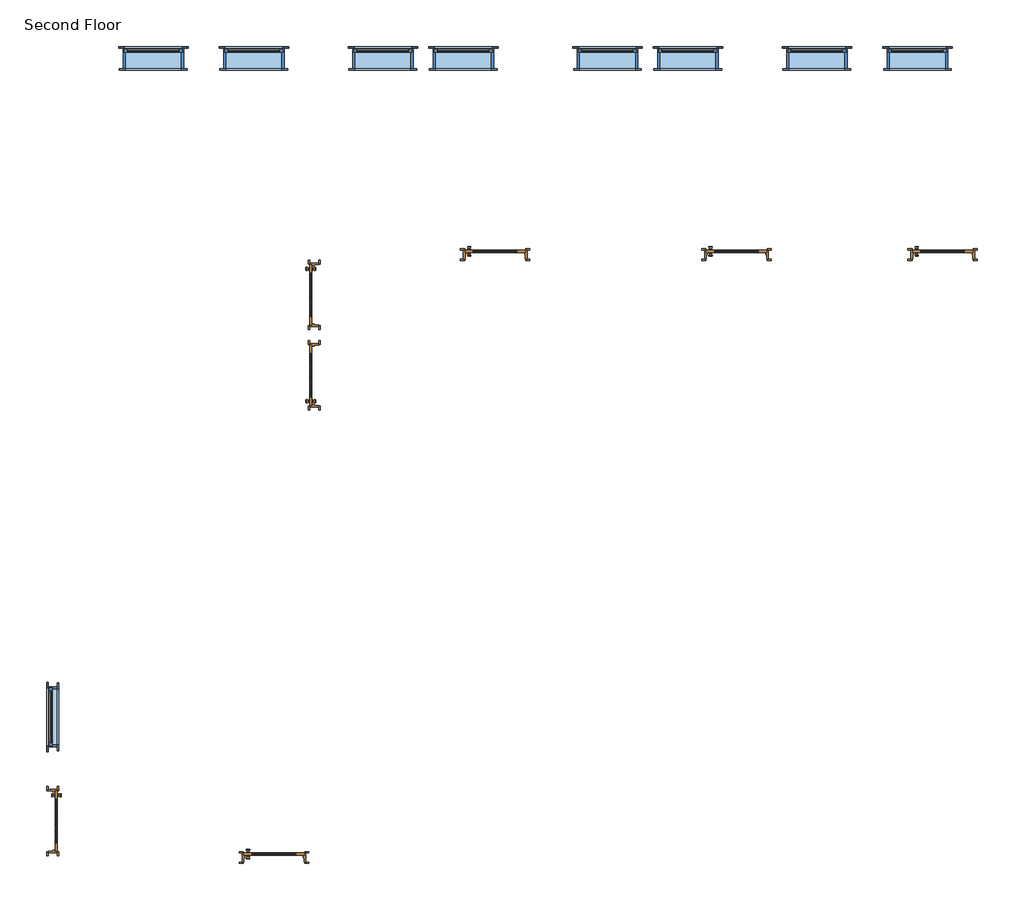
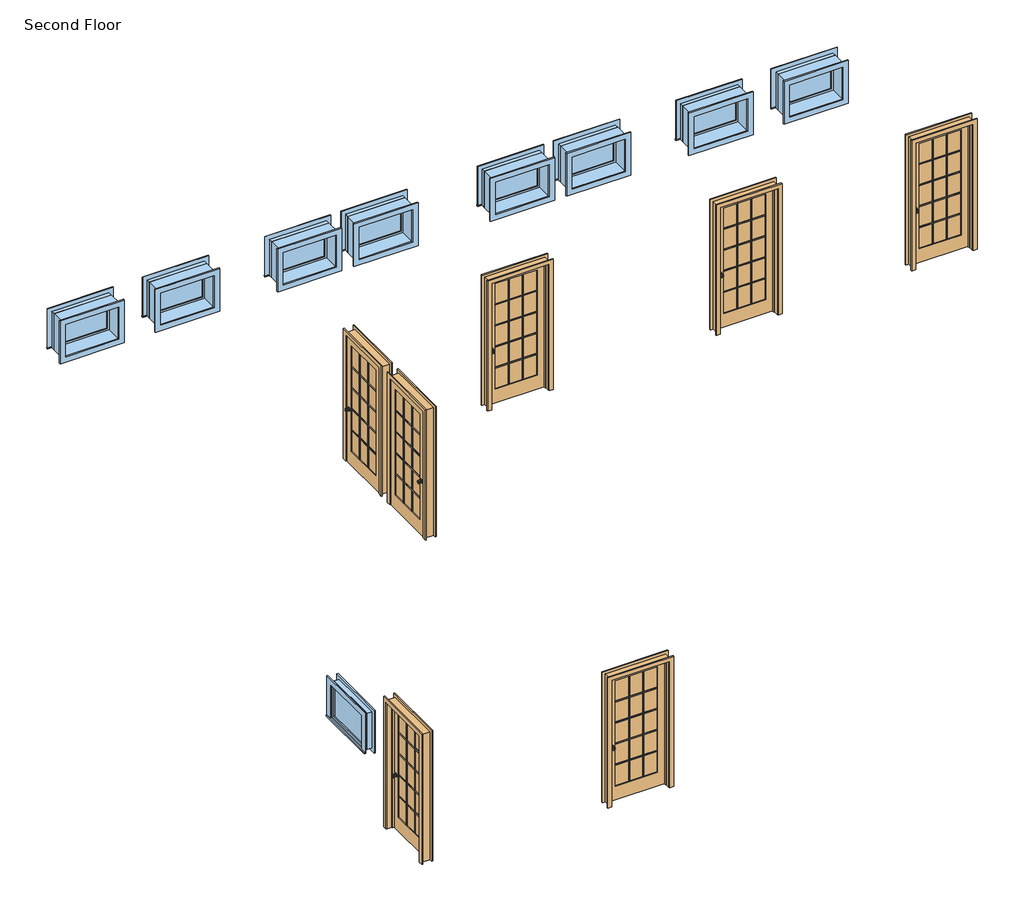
# One storey: 9 windows, 7 doors.
"""IFC4 building model written with IfcOpenShell, lengths in millimetres."""

from ifc_helpers import new_model, si_unit, origin, place, context, project, spatial, transform, mapped, element, save
from components import door_918c180d, door_79dd3e86, window_d9bd7f0d, window_2beb2d92, window_bc8bd959

model = new_model("IFC4")

# Units and contexts
model_context = context("Model", 3, world=origin())
ifc_project = project(units=[si_unit("LENGTHUNIT", "METRE", prefix="MILLI")], contexts=[model_context])

# Site, building, storey
site = spatial("IfcSite", under=ifc_project)
building = spatial("IfcBuilding", under=site)
storey = spatial("IfcBuildingStorey", under=building, Name="Second Floor", Elevation=7315.2)

# Doors
placement = place(None, origin())
door_shape = door_918c180d(model_context)
element("IfcDoor", 1, ObjectType="Door-Interior-Single-Full Glass-Wood : 36\" x 84\"", at=placement, inside=storey, context=model_context, shape_type="MappedRepresentation", body=[
    mapped(door_shape, transform((-2168.3269416, -1737.6636161, 7315.2), x_axis=(0.0, -1.0, 0.0), y_axis=(1.0, 0.0, 0.0), z_axis=(0.0, 0.0, 1.0))),
])
element("IfcDoor", 2, ObjectType="Door-Interior-Single-Full Glass-Wood : 36\" x 84\"", at=placement, inside=storey, context=model_context, shape_type="MappedRepresentation", body=[
    mapped(door_shape, transform((1181.2980584, -2286.9386161, 7315.2), x_axis=(1.0, 0.0, 0.0), y_axis=(0.0, 1.0, 0.0), z_axis=(0.0, 0.0, 1.0))),
])
element("IfcDoor", 3, ObjectType="Door-Interior-Single-Full Glass-Wood : 36\" x 84\"", at=placement, inside=storey, context=model_context, shape_type="MappedRepresentation", body=[
    mapped(door_shape, transform((1787.7230584, 5025.0863839, 7315.2), x_axis=(0.0, 1.0, 0.0), y_axis=(-1.0, 0.0, 0.0), z_axis=(0.0, 0.0, 1.0))),
])
element("IfcDoor", 4, ObjectType="Door-Interior-Single-Full Glass-Wood : 36\" x 84\"", at=placement, inside=storey, context=model_context, shape_type="MappedRepresentation", body=[
    mapped(door_shape, transform((4534.0980584, 6857.0613839, 7315.2), x_axis=(1.0, 0.0, 0.0), y_axis=(0.0, 1.0, 0.0), z_axis=(0.0, 0.0, 1.0))),
])
element("IfcDoor", 5, ObjectType="Door-Interior-Single-Full Glass-Wood : 36\" x 84\"", at=placement, inside=storey, context=model_context, shape_type="MappedRepresentation", body=[
    mapped(door_shape, transform((8191.6980584, 6857.0613839, 7315.2), x_axis=(1.0, 0.0, 0.0), y_axis=(0.0, 1.0, 0.0), z_axis=(0.0, 0.0, 1.0))),
])
element("IfcDoor", 6, ObjectType="Door-Interior-Single-Full Glass-Wood : 36\" x 84\"", at=placement, inside=storey, context=model_context, shape_type="MappedRepresentation", body=[
    mapped(door_shape, transform((11317.4855584, 6857.0613839, 7315.2), x_axis=(1.0, 0.0, 0.0), y_axis=(0.0, 1.0, 0.0), z_axis=(0.0, 0.0, 1.0))),
])
door_2_shape = door_79dd3e86(model_context)
element("IfcDoor", 7, ObjectType="Door-Interior-Single-Full Glass-Wood : 36\" x 84\"", at=placement, inside=storey, context=model_context, shape_type="MappedRepresentation", body=[
    mapped(door_2_shape, transform((1787.7230584, 6244.2863839, 7315.2), x_axis=(0.0, -1.0, 0.0), y_axis=(1.0, 0.0, 0.0), z_axis=(0.0, 0.0, 1.0))),
])

# Windows
window_shape = window_d9bd7f0d(model_context)
element("IfcWindow", 8, ObjectType="Awning with Trim : 36\" x 24\"", at=placement, inside=storey, context=model_context, shape_type="MappedRepresentation", body=[
    mapped(window_shape, transform((-2171.5019416, -156.5136161, 7315.2), x_axis=(0.0, 1.0, 0.0), y_axis=(-1.0, 0.0, 0.0), z_axis=(0.0, 0.0, 1.0))),
])
window_2_shape = window_2beb2d92(model_context)
element("IfcWindow", 9, ObjectType="Awning with Trim : 36\" x 24\"", at=placement, inside=storey, context=model_context, shape_type="MappedRepresentation", body=[
    mapped(window_2_shape, transform((876.4980584, 9830.4488839, 7315.2), x_axis=(-1.0, 0.0, 0.0), y_axis=(0.0, -1.0, 0.0), z_axis=(0.0, 0.0, 1.0))),
])
element("IfcWindow", 10, ObjectType="Awning with Trim : 36\" x 24\"", at=placement, inside=storey, context=model_context, shape_type="MappedRepresentation", body=[
    mapped(window_2_shape, transform((-647.5019416, 9830.4488839, 7315.2), x_axis=(-1.0, 0.0, 0.0), y_axis=(0.0, -1.0, 0.0), z_axis=(0.0, 0.0, 1.0))),
])
element("IfcWindow", 11, ObjectType="Awning with Trim : 36\" x 24\"", at=placement, inside=storey, context=model_context, shape_type="MappedRepresentation", body=[
    mapped(window_2_shape, transform((4051.4980584, 9830.4488839, 7315.2), x_axis=(-1.0, 0.0, 0.0), y_axis=(0.0, -1.0, 0.0), z_axis=(0.0, 0.0, 1.0))),
])
element("IfcWindow", 12, ObjectType="Awning with Trim : 36\" x 24\"", at=placement, inside=storey, context=model_context, shape_type="MappedRepresentation", body=[
    mapped(window_2_shape, transform((2832.2980584, 9830.4488839, 7315.2), x_axis=(-1.0, 0.0, 0.0), y_axis=(0.0, -1.0, 0.0), z_axis=(0.0, 0.0, 1.0))),
])
window_3_shape = window_bc8bd959(model_context)
element("IfcWindow", 13, ObjectType="Awning with Trim : 36\" x 24\"", at=placement, inside=storey, context=model_context, shape_type="MappedRepresentation", body=[
    mapped(window_3_shape, transform((9410.8980584, 9830.4488839, 7315.2), x_axis=(1.0, 0.0, 0.0), y_axis=(0.0, 1.0, 0.0), z_axis=(0.0, 0.0, 1.0))),
])
element("IfcWindow", 14, ObjectType="Awning with Trim : 36\" x 24\"", at=placement, inside=storey, context=model_context, shape_type="MappedRepresentation", body=[
    mapped(window_3_shape, transform((10934.8980584, 9830.4488839, 7315.2), x_axis=(1.0, 0.0, 0.0), y_axis=(0.0, 1.0, 0.0), z_axis=(0.0, 0.0, 1.0))),
])
element("IfcWindow", 15, ObjectType="Awning with Trim : 36\" x 24\"", at=placement, inside=storey, context=model_context, shape_type="MappedRepresentation", body=[
    mapped(window_3_shape, transform((6235.8980584, 9830.4488839, 7315.2), x_axis=(1.0, 0.0, 0.0), y_axis=(0.0, 1.0, 0.0), z_axis=(0.0, 0.0, 1.0))),
])
element("IfcWindow", 16, ObjectType="Awning with Trim : 36\" x 24\"", at=placement, inside=storey, context=model_context, shape_type="MappedRepresentation", body=[
    mapped(window_3_shape, transform((7455.0980584, 9830.4488839, 7315.2), x_axis=(1.0, 0.0, 0.0), y_axis=(0.0, 1.0, 0.0), z_axis=(0.0, 0.0, 1.0))),
])

save(model, "model.ifc")
